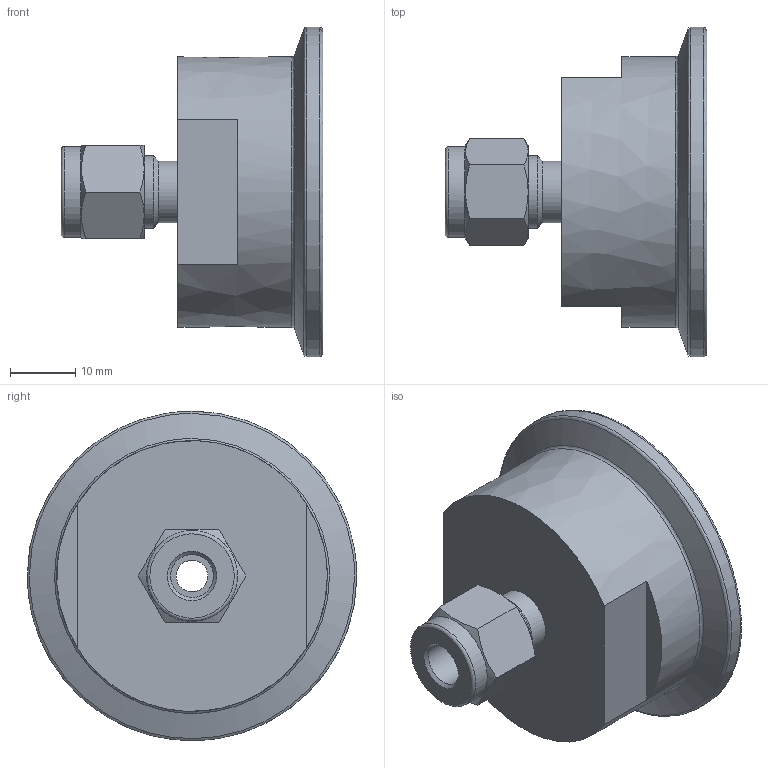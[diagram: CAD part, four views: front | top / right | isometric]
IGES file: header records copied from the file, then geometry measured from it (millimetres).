
Global section: file name: SSFA-4-16SA; native system: Autodesk Inventor 2016; preprocessor: unknown; author: DESIGNPC2; date: 20160312.143218; units: millimetre
Bounding box: 40.04 x 50.4 x 50.39 mm (x, y, z)
Volume: 29763 mm3; surface area: 8725.1 mm2
Topology: 1 solids, 1 shells, 44 faces, 128 edges, 90 vertices
Faces by surface type: bspline 44
